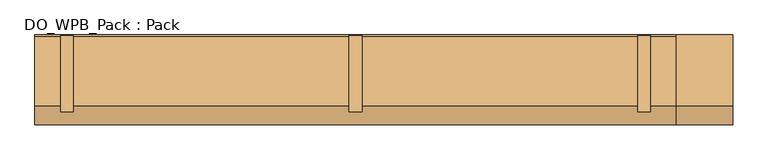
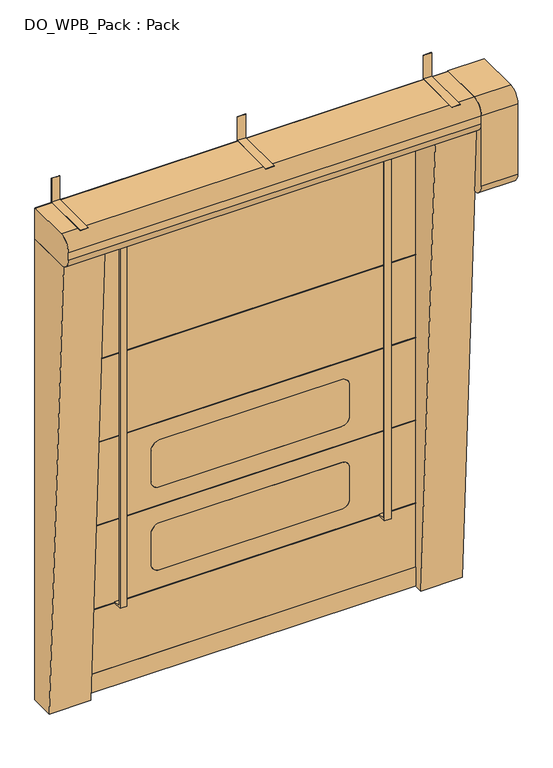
"""IFC4 building model written with IfcOpenShell, lengths in millimetres: door geometry, DO_WPB_Pack : Pack."""

import ifcopenshell
import ifcopenshell.guid

model = None  # the IFC model being written
_history = None  # IfcOwnerHistory: only IFC2X3 demands one
_inside = {}  # id of a spatial element -> (the spatial element, [elements in it])
_under = {}  # id of a project, library or spatial element -> (it, [spatial elements below it])
_declared = {}  # id of a project -> (the project, [libraries it declares])
_typed = {}  # id of a type object -> (the type object, [elements of that type])
_made_of = {}  # id of a material, layer set ... -> (it, [elements and type objects made of it])


def new_model(schema):
    """Start an empty IFC model of exactly this schema.

    Asked for "IFC4X3", IfcOpenShell would pick the latest addendum, in which some entities
    have other attributes; the version numbers below select the first issue.
    IFC2X3 requires an IfcOwnerHistory on every rooted entity: one is made here for all.
    """
    global model, _history
    if schema == "IFC4X3":
        model = ifcopenshell.file(schema_version=(4, 3, 0, 0))
    else:
        model = ifcopenshell.file(schema=schema)
    _inside.clear()
    _under.clear()
    _declared.clear()
    _typed.clear()
    _made_of.clear()
    _history = None
    if model.schema == "IFC2X3":
        org = make("IfcOrganization", Name="unknown")
        user = make(
            "IfcPersonAndOrganization",
            ThePerson=make("IfcPerson", FamilyName="unknown"),
            TheOrganization=org,
        )
        app = make(
            "IfcApplication",
            ApplicationDeveloper=org,
            Version="unknown",
            ApplicationFullName="unknown",
            ApplicationIdentifier="unknown",
        )
        _history = make(
            "IfcOwnerHistory",
            OwningUser=user,
            OwningApplication=app,
            ChangeAction="ADDED",
            CreationDate=0,
        )
    return model


def make(cls, **values):
    """One entity of the class cls with the attributes given. An attribute that is None is left unset."""
    return model.create_entity(
        cls, **{name: value for name, value in values.items() if value is not None}
    )


def rooted(cls, **values):
    """An entity with a GlobalId (a new one), such as an element, a storey or a relation."""
    return make(cls, GlobalId=ifcopenshell.guid.new(), OwnerHistory=_history, **values)


def si_unit(unit_type, name, prefix=None):
    """IfcSIUnit, for example si_unit("LENGTHUNIT", "METRE", prefix="MILLI")."""
    return make("IfcSIUnit", UnitType=unit_type, Prefix=prefix, Name=name)


def assignment(units):
    """IfcUnitAssignment: the units of a project."""
    return None if units is None else make("IfcUnitAssignment", Units=units)


def point(xyz):
    """IfcCartesianPoint."""
    return None if xyz is None else make("IfcCartesianPoint", Coordinates=xyz)


def direction(xyz):
    """IfcDirection."""
    return None if xyz is None else make("IfcDirection", DirectionRatios=xyz)


def frame(location, z_axis=None, x_axis=None):
    """IfcAxis2Placement3D, a coordinate frame: its origin and axes. An axis left out is left unset."""
    return make(
        "IfcAxis2Placement3D",
        Location=point(location),
        Axis=direction(z_axis),
        RefDirection=direction(x_axis),
    )


def frame_2d(location, x_axis=None):
    """IfcAxis2Placement2D, a coordinate frame in the plane: its origin and x axis."""
    return make(
        "IfcAxis2Placement2D", Location=point(location), RefDirection=direction(x_axis)
    )


def origin():
    """The frame at (0, 0, 0) with its axes left unset."""
    return frame((0.0, 0.0, 0.0))


def origin_with_axes():
    """The frame at (0, 0, 0) with the z axis (0, 0, 1) and the x axis (1, 0, 0) written out."""
    return frame((0.0, 0.0, 0.0), z_axis=(0.0, 0.0, 1.0), x_axis=(1.0, 0.0, 0.0))


def place(relative_to, where):
    """IfcLocalPlacement: puts the frame where relative to a parent placement (None: the world)."""
    return make(
        "IfcLocalPlacement", PlacementRelTo=relative_to, RelativePlacement=where
    )


def context(
    kind, dimensions, precision=None, world=None, true_north=None, identifier=None
):
    """IfcGeometricRepresentationContext, for example the 3D "Model" context."""
    return make(
        "IfcGeometricRepresentationContext",
        ContextIdentifier=identifier,
        ContextType=kind,
        CoordinateSpaceDimension=dimensions,
        Precision=precision,
        WorldCoordinateSystem=world,
        TrueNorth=true_north,
    )


def project(units=None, contexts=None):
    """IfcProject with its units and contexts."""
    return rooted(
        "IfcProject",
        Name="project",
        RepresentationContexts=contexts,
        UnitsInContext=assignment(units),
    )


def spatial(cls, under=None, at=None, **own):
    """A site, building, storey or space (cls), placed at a placement, below another one or the project."""
    s = rooted(cls, ObjectPlacement=at, **own)
    if under is not None:
        _under.setdefault(under.id(), (under, []))[1].append(s)
    return s


def polyline(points):
    """IfcPolyline through the points."""
    return make("IfcPolyline", Points=[point(p) for p in points])


def circle_curve(where, radius):
    """IfcCircle in the frame where."""
    return make("IfcCircle", Position=where, Radius=radius)


def trimmed(basis, trim1, trim2, sense, master):
    """IfcTrimmedCurve: the piece of a basis curve between two trims."""
    return make(
        "IfcTrimmedCurve",
        BasisCurve=basis,
        Trim1=trim1,
        Trim2=trim2,
        SenseAgreement=sense,
        MasterRepresentation=master,
    )


def segment(curve, same_sense, transition):
    """IfcCompositeCurveSegment."""
    return make(
        "IfcCompositeCurveSegment",
        Transition=transition,
        SameSense=same_sense,
        ParentCurve=curve,
    )


def composite_curve(segments, self_intersect=None):
    """IfcCompositeCurve: segments joined end to end."""
    return make("IfcCompositeCurve", Segments=segments, SelfIntersect=self_intersect)


def outline(outer, holes=None, kind="AREA"):
    """IfcArbitraryClosedProfileDef: a profile drawn as a closed curve; with holes, ...WithVoids."""
    if holes is None:
        return make("IfcArbitraryClosedProfileDef", ProfileType=kind, OuterCurve=outer)
    return make(
        "IfcArbitraryProfileDefWithVoids",
        ProfileType=kind,
        OuterCurve=outer,
        InnerCurves=holes,
    )


def extrude(swept, where, along, depth):
    """IfcExtrudedAreaSolid: the profile swept, set in the frame where, extruded along a direction by depth."""
    return make(
        "IfcExtrudedAreaSolid",
        SweptArea=swept,
        Position=where,
        ExtrudedDirection=direction(along),
        Depth=depth,
    )


def shape(context_of_items, identifier, shape_type, items):
    """IfcShapeRepresentation: the items that make up one representation, for example the "Body"."""
    return make(
        "IfcShapeRepresentation",
        ContextOfItems=context_of_items,
        RepresentationIdentifier=identifier,
        RepresentationType=shape_type,
        Items=items,
    )


def source(mapping_origin, context_of_items, identifier, shape_type, items):
    """IfcRepresentationMap: a shape defined once, which mapped items show again and again."""
    return make(
        "IfcRepresentationMap",
        MappingOrigin=mapping_origin,
        MappedRepresentation=shape(context_of_items, identifier, shape_type, items),
    )


def transform(
    local_origin,
    x_axis=None,
    y_axis=None,
    z_axis=None,
    scale=None,
    scale2=None,
    scale3=None,
    uniform=True,
):
    """IfcCartesianTransformationOperator3D, or its non-uniform kind. x_axis, y_axis, z_axis: its Axis1, 2, 3."""
    if uniform:
        return make(
            "IfcCartesianTransformationOperator3D",
            Axis1=direction(x_axis),
            Axis2=direction(y_axis),
            LocalOrigin=point(local_origin),
            Scale=scale,
            Axis3=direction(z_axis),
        )
    return make(
        "IfcCartesianTransformationOperator3DnonUniform",
        Axis1=direction(x_axis),
        Axis2=direction(y_axis),
        LocalOrigin=point(local_origin),
        Scale=scale,
        Axis3=direction(z_axis),
        Scale2=scale2,
        Scale3=scale3,
    )


def mapped(mapping_source, mapping_target):
    """IfcMappedItem: shows the shape of a source again, moved by a transform."""
    return make(
        "IfcMappedItem", MappingSource=mapping_source, MappingTarget=mapping_target
    )


def made_of(thing, what):
    """Note that an element or type object is made of a material, layer set ...; save() writes the relation."""
    if what is not None:
        _made_of.setdefault(what.id(), (what, []))[1].append(thing)
    return thing


def element(
    cls,
    number,
    at=None,
    inside=None,
    cuts=None,
    type_object=None,
    material=None,
    context=None,
    identifier="Body",
    shape_type=None,
    held_by="IfcProductDefinitionShape",
    body=None,
    shapes=None,
    **own,
):
    """One element of the class cls, such as IfcWall. Its Tag is "e" and its number.

    at: its placement. inside: the storey or other place that contains it. cuts: it is an
    opening in that element (IfcRelVoidsElement). A single representation is given by context,
    identifier, shape_type and body (its items); several are given by shapes. held_by: the class
    of the entity that holds the representations. save() writes the other relations.
    """
    e = rooted(cls, Tag="e%d" % number, ObjectPlacement=at, **own)
    if body is not None:
        shapes = [shape(context, identifier, shape_type, body)]
    if shapes is not None:
        e.Representation = make(held_by, Representations=shapes)
    if inside is not None:
        _inside.setdefault(inside.id(), (inside, []))[1].append(e)
    if cuts is not None:
        rooted(
            "IfcRelVoidsElement", RelatingBuildingElement=cuts, RelatedOpeningElement=e
        )
    if type_object is not None:
        _typed.setdefault(type_object.id(), (type_object, []))[1].append(e)
    return made_of(e, material)


def aggregate(whole, parts):
    """IfcRelAggregates: a whole, such as a stair, and the parts it consists of."""
    return rooted("IfcRelAggregates", RelatingObject=whole, RelatedObjects=parts)


def save(model, path):
    """Write the relations noted so far, then the file.

    IfcRelAggregates (storeys below a building ...), IfcRelContainedInSpatialStructure (elements
    in a storey), IfcRelDefinesByType, IfcRelAssociatesMaterial and IfcRelDeclares: one each for
    every whole, place, type object, material and project.
    """
    for whole, parts in _under.values():
        aggregate(whole, parts)
    for where, things in _inside.values():
        rooted(
            "IfcRelContainedInSpatialStructure",
            RelatedElements=things,
            RelatingStructure=where,
        )
    for kind, things in _typed.values():
        rooted("IfcRelDefinesByType", RelatedObjects=things, RelatingType=kind)
    for what, things in _made_of.values():
        rooted("IfcRelAssociatesMaterial", RelatedObjects=things, RelatingMaterial=what)
    for by, libraries in _declared.values():
        rooted("IfcRelDeclares", RelatingContext=by, RelatedDefinitions=libraries)
    model.write(path)


def do_wpb_pack_pack_5cf3cf8c(model_context):
    return source(origin(), model_context, "Body", "SweptSolid", [
        extrude(outline(composite_curve([segment(trimmed(circle_curve(frame_2d((25.0, 1175.0)), 6.0), [point((31.0, 1175.0))], [point((19.0, 1175.0))], False, "CARTESIAN"), True, "CONTINUOUS"), segment(trimmed(circle_curve(frame_2d((25.0, 1175.0)), 6.0), [point((19.0, 1175.0))], [point((31.0, 1175.0))], False, "CARTESIAN"), True, "CONTINUOUS")], self_intersect=False)), frame((0.0, -10.0, 0.0), z_axis=(0.0, 1.0, 0.0), x_axis=(0.0, 0.0, 1.0)), (0.0, 0.0, 1.0), 10.0),
        extrude(outline(composite_curve([segment(trimmed(circle_curve(frame_2d((25.0, 1075.0)), 6.0), [point((31.0, 1075.0))], [point((19.0, 1075.0))], False, "CARTESIAN"), True, "CONTINUOUS"), segment(trimmed(circle_curve(frame_2d((25.0, 1075.0)), 6.0), [point((19.0, 1075.0))], [point((31.0, 1075.0))], False, "CARTESIAN"), True, "CONTINUOUS")], self_intersect=False)), frame((0.0, -10.0, 0.0), z_axis=(0.0, 1.0, 0.0), x_axis=(0.0, 0.0, 1.0)), (0.0, 0.0, 1.0), 10.0),
        extrude(outline(composite_curve([segment(trimmed(circle_curve(frame_2d((25.0, -1075.0)), 6.0), [point((31.0, -1075.0))], [point((19.0, -1075.0))], False, "CARTESIAN"), True, "CONTINUOUS"), segment(trimmed(circle_curve(frame_2d((25.0, -1075.0)), 6.0), [point((19.0, -1075.0))], [point((31.0, -1075.0))], False, "CARTESIAN"), True, "CONTINUOUS")], self_intersect=False)), frame((0.0, -10.0, 0.0), z_axis=(0.0, 1.0, 0.0), x_axis=(0.0, 0.0, 1.0)), (0.0, 0.0, 1.0), 10.0),
        extrude(outline(composite_curve([segment(trimmed(circle_curve(frame_2d((25.0, -1175.0)), 6.0), [point((31.0, -1175.0))], [point((19.0, -1175.0))], False, "CARTESIAN"), True, "CONTINUOUS"), segment(trimmed(circle_curve(frame_2d((25.0, -1175.0)), 6.0), [point((19.0, -1175.0))], [point((31.0, -1175.0))], False, "CARTESIAN"), True, "CONTINUOUS")], self_intersect=False)), frame((0.0, -10.0, 0.0), z_axis=(0.0, 1.0, 0.0), x_axis=(0.0, 0.0, 1.0)), (0.0, 0.0, 1.0), 10.0),
        extrude(outline(composite_curve([segment(trimmed(circle_curve(frame_2d((1075.0, -116.0)), 6.0), [point((1069.0, -116.0))], [point((1081.0, -116.0))], False, "CARTESIAN"), True, "CONTINUOUS"), segment(polyline([(1081.0, -116.0), (1081.0, -134.0)]), True, "CONTINUOUS"), segment(trimmed(circle_curve(frame_2d((1075.0, -134.0)), 6.0), [point((1081.0, -134.0))], [point((1069.0, -134.0))], False, "CARTESIAN"), True, "CONTINUOUS"), segment(polyline([(1069.0, -134.0), (1069.0, -116.0)]), True, "CONTINUOUS")], self_intersect=False)), origin_with_axes(), (0.0, 0.0, 1.0), 10.0),
        extrude(outline(composite_curve([segment(trimmed(circle_curve(frame_2d((1175.0, -116.0)), 6.0), [point((1169.0, -116.0))], [point((1181.0, -116.0))], False, "CARTESIAN"), True, "CONTINUOUS"), segment(polyline([(1181.0, -116.0), (1181.0, -134.0)]), True, "CONTINUOUS"), segment(trimmed(circle_curve(frame_2d((1175.0, -134.0)), 6.0), [point((1181.0, -134.0))], [point((1169.0, -134.0))], False, "CARTESIAN"), True, "CONTINUOUS"), segment(polyline([(1169.0, -134.0), (1169.0, -116.0)]), True, "CONTINUOUS")], self_intersect=False)), origin_with_axes(), (0.0, 0.0, 1.0), 10.0),
        extrude(outline(composite_curve([segment(trimmed(circle_curve(frame_2d((1075.0, -16.0)), 6.0), [point((1069.0, -16.0))], [point((1081.0, -16.0))], False, "CARTESIAN"), True, "CONTINUOUS"), segment(polyline([(1081.0, -16.0), (1081.0, -34.0)]), True, "CONTINUOUS"), segment(trimmed(circle_curve(frame_2d((1075.0, -34.0)), 6.0), [point((1081.0, -34.0))], [point((1069.0, -34.0))], False, "CARTESIAN"), True, "CONTINUOUS"), segment(polyline([(1069.0, -34.0), (1069.0, -16.0)]), True, "CONTINUOUS")], self_intersect=False)), origin_with_axes(), (0.0, 0.0, 1.0), 10.0),
        extrude(outline(composite_curve([segment(trimmed(circle_curve(frame_2d((1175.0, -16.0)), 6.0), [point((1169.0, -16.0))], [point((1181.0, -16.0))], False, "CARTESIAN"), True, "CONTINUOUS"), segment(polyline([(1181.0, -16.0), (1181.0, -34.0)]), True, "CONTINUOUS"), segment(trimmed(circle_curve(frame_2d((1175.0, -34.0)), 6.0), [point((1181.0, -34.0))], [point((1169.0, -34.0))], False, "CARTESIAN"), True, "CONTINUOUS"), segment(polyline([(1169.0, -34.0), (1169.0, -16.0)]), True, "CONTINUOUS")], self_intersect=False)), origin_with_axes(), (0.0, 0.0, 1.0), 10.0),
        extrude(outline(composite_curve([segment(trimmed(circle_curve(frame_2d((-1075.0, -134.0)), 6.0), [point((-1069.0, -134.0))], [point((-1081.0, -134.0))], False, "CARTESIAN"), True, "CONTINUOUS"), segment(polyline([(-1081.0, -134.0), (-1081.0, -116.0)]), True, "CONTINUOUS"), segment(trimmed(circle_curve(frame_2d((-1075.0, -116.0)), 6.0), [point((-1081.0, -116.0))], [point((-1069.0, -116.0))], False, "CARTESIAN"), True, "CONTINUOUS"), segment(polyline([(-1069.0, -116.0), (-1069.0, -134.0)]), True, "CONTINUOUS")], self_intersect=False)), origin_with_axes(), (0.0, 0.0, 1.0), 10.0),
        extrude(outline(composite_curve([segment(trimmed(circle_curve(frame_2d((-1175.0, -134.0)), 6.0), [point((-1169.0, -134.0))], [point((-1181.0, -134.0))], False, "CARTESIAN"), True, "CONTINUOUS"), segment(polyline([(-1181.0, -134.0), (-1181.0, -116.0)]), True, "CONTINUOUS"), segment(trimmed(circle_curve(frame_2d((-1175.0, -116.0)), 6.0), [point((-1181.0, -116.0))], [point((-1169.0, -116.0))], False, "CARTESIAN"), True, "CONTINUOUS"), segment(polyline([(-1169.0, -116.0), (-1169.0, -134.0)]), True, "CONTINUOUS")], self_intersect=False)), origin_with_axes(), (0.0, 0.0, 1.0), 10.0),
        extrude(outline(composite_curve([segment(trimmed(circle_curve(frame_2d((-1075.0, -34.0)), 6.0), [point((-1069.0, -34.0))], [point((-1081.0, -34.0))], False, "CARTESIAN"), True, "CONTINUOUS"), segment(polyline([(-1081.0, -34.0), (-1081.0, -16.0)]), True, "CONTINUOUS"), segment(trimmed(circle_curve(frame_2d((-1075.0, -16.0)), 6.0), [point((-1081.0, -16.0))], [point((-1069.0, -16.0))], False, "CARTESIAN"), True, "CONTINUOUS"), segment(polyline([(-1069.0, -16.0), (-1069.0, -34.0)]), True, "CONTINUOUS")], self_intersect=False)), origin_with_axes(), (0.0, 0.0, 1.0), 10.0),
        extrude(outline(composite_curve([segment(trimmed(circle_curve(frame_2d((-1175.0, -34.0)), 6.0), [point((-1169.0, -34.0))], [point((-1181.0, -34.0))], False, "CARTESIAN"), True, "CONTINUOUS"), segment(polyline([(-1181.0, -34.0), (-1181.0, -16.0)]), True, "CONTINUOUS"), segment(trimmed(circle_curve(frame_2d((-1175.0, -16.0)), 6.0), [point((-1181.0, -16.0))], [point((-1169.0, -16.0))], False, "CARTESIAN"), True, "CONTINUOUS"), segment(polyline([(-1169.0, -16.0), (-1169.0, -34.0)]), True, "CONTINUOUS")], self_intersect=False)), origin_with_axes(), (0.0, 0.0, 1.0), 10.0),
        extrude(outline(polyline([(0.0, 3303.0), (0.0, 3150.0), (-300.0, 3150.0), (-300.0, 3152.0), (-2.0, 3152.0), (-2.0, 3303.0), (0.0, 3303.0)])), frame((-25.0, 0.0, 0.0), z_axis=(1.0, 0.0, 0.0), x_axis=(0.0, 1.0, 0.0)), (0.0, 0.0, 1.0), 50.0),
        extrude(outline(polyline([(0.0, 3303.0), (0.0, 3150.0), (-300.0, 3150.0), (-300.0, 3152.0), (-2.0, 3152.0), (-2.0, 3303.0), (0.0, 3303.0)])), frame((1100.0, 0.0, 0.0), z_axis=(1.0, 0.0, 0.0), x_axis=(0.0, 1.0, 0.0)), (0.0, 0.0, 1.0), 50.0),
        extrude(outline(polyline([(0.0, 3303.0), (0.0, 3150.0), (-300.0, 3150.0), (-300.0, 3152.0), (-2.0, 3152.0), (-2.0, 3303.0), (0.0, 3303.0)])), frame((-1150.0, 0.0, 0.0), z_axis=(1.0, 0.0, 0.0), x_axis=(0.0, 1.0, 0.0)), (0.0, 0.0, 1.0), 50.0),
        extrude(outline(polyline([(-93.5, 525.0), (-148.5, 525.0), (-148.5, 3055.0), (-93.5, 3055.0), (-93.5, 3045.0), (-138.5, 3045.0), (-138.5, 535.0), (-93.5, 535.0), (-93.5, 525.0)])), frame((780.0, 0.0, 0.0), z_axis=(1.0, 0.0, 0.0), x_axis=(0.0, 1.0, 0.0)), (0.0, 0.0, 1.0), 40.0),
        extrude(outline(polyline([(-93.5, 525.0), (-148.5, 525.0), (-148.5, 3055.0), (-93.5, 3055.0), (-93.5, 3045.0), (-138.5, 3045.0), (-138.5, 535.0), (-93.5, 535.0), (-93.5, 525.0)])), frame((-820.0, 0.0, 0.0), z_axis=(1.0, 0.0, 0.0), x_axis=(0.0, 1.0, 0.0)), (0.0, 0.0, 1.0), 40.0),
        extrude(outline(polyline([(-1000.0, -95.5), (-1000.0, -84.5), (1000.0, -84.5), (1000.0, -95.5), (-1000.0, -95.5)])), frame((0.0, 0.0, 2119.0), z_axis=(0.0, 0.0, 1.0), x_axis=(1.0, 0.0, 0.0)), (0.0, 0.0, 1.0), 2.0),
        extrude(outline(polyline([(-1000.0, -95.5), (-1000.0, -84.5), (1000.0, -84.5), (1000.0, -95.5), (-1000.0, -95.5)])), frame((0.0, 0.0, 1589.0), z_axis=(0.0, 0.0, 1.0), x_axis=(1.0, 0.0, 0.0)), (0.0, 0.0, 1.0), 2.0),
        extrude(outline(polyline([(-1000.0, -95.5), (-1000.0, -84.5), (1000.0, -84.5), (1000.0, -95.5), (-1000.0, -95.5)])), frame((0.0, 0.0, 1059.0), z_axis=(0.0, 0.0, 1.0), x_axis=(1.0, 0.0, 0.0)), (0.0, 0.0, 1.0), 2.0),
        extrude(outline(polyline([(-1000.0, -95.5), (-1000.0, -84.5), (1000.0, -84.5), (1000.0, -95.5), (-1000.0, -95.5)])), frame((0.0, 0.0, 529.0), z_axis=(0.0, 0.0, 1.0), x_axis=(1.0, 0.0, 0.0)), (0.0, 0.0, 1.0), 2.0),
        extrude(outline(composite_curve([segment(trimmed(circle_curve(frame_2d((1225.0, 550.0)), 50.0), [point((1175.0, 550.0))], [point((1225.0, 600.0))], False, "CARTESIAN"), True, "CONTINUOUS"), segment(polyline([(1225.0, 600.0), (1425.0, 600.0)]), True, "CONTINUOUS"), segment(trimmed(circle_curve(frame_2d((1425.0, 550.0)), 50.0), [point((1425.0, 600.0))], [point((1475.0, 550.0))], False, "CARTESIAN"), True, "CONTINUOUS"), segment(polyline([(1475.0, 550.0), (1475.0, -550.0)]), True, "CONTINUOUS"), segment(trimmed(circle_curve(frame_2d((1425.0, -550.0)), 50.0), [point((1475.0, -550.0))], [point((1425.0, -600.0))], False, "CARTESIAN"), True, "CONTINUOUS"), segment(polyline([(1425.0, -600.0), (1225.0, -600.0)]), True, "CONTINUOUS"), segment(trimmed(circle_curve(frame_2d((1225.0, -550.0)), 50.0), [point((1225.0, -600.0))], [point((1175.0, -550.0))], False, "CARTESIAN"), True, "CONTINUOUS"), segment(polyline([(1175.0, -550.0), (1175.0, 550.0)]), True, "CONTINUOUS")], self_intersect=False)), frame((0.0, -93.5, 0.0), z_axis=(0.0, 1.0, 0.0), x_axis=(0.0, 0.0, 1.0)), (0.0, 0.0, 1.0), 7.0),
        extrude(outline(composite_curve([segment(trimmed(circle_curve(frame_2d((695.0, 550.0)), 50.0), [point((645.0, 550.0))], [point((695.0, 600.0))], False, "CARTESIAN"), True, "CONTINUOUS"), segment(polyline([(695.0, 600.0), (895.0, 600.0)]), True, "CONTINUOUS"), segment(trimmed(circle_curve(frame_2d((895.0, 550.0)), 50.0), [point((895.0, 600.0))], [point((945.0, 550.0))], False, "CARTESIAN"), True, "CONTINUOUS"), segment(polyline([(945.0, 550.0), (945.0, -550.0)]), True, "CONTINUOUS"), segment(trimmed(circle_curve(frame_2d((895.0, -550.0)), 50.0), [point((945.0, -550.0))], [point((895.0, -600.0))], False, "CARTESIAN"), True, "CONTINUOUS"), segment(polyline([(895.0, -600.0), (695.0, -600.0)]), True, "CONTINUOUS"), segment(trimmed(circle_curve(frame_2d((695.0, -550.0)), 50.0), [point((695.0, -600.0))], [point((645.0, -550.0))], False, "CARTESIAN"), True, "CONTINUOUS"), segment(polyline([(645.0, -550.0), (645.0, 550.0)]), True, "CONTINUOUS")], self_intersect=False)), frame((0.0, -93.5, 0.0), z_axis=(0.0, 1.0, 0.0), x_axis=(0.0, 0.0, 1.0)), (0.0, 0.0, 1.0), 7.0),
        extrude(outline(polyline([(120.0, -1012.0), (120.0, 1012.0), (3050.0, 1012.0), (3050.0, -1012.0), (120.0, -1012.0)]), holes=[composite_curve([segment(trimmed(circle_curve(frame_2d((695.0, 550.0)), 50.0), [point((695.0, 600.0))], [point((645.0, 550.0))], True, "CARTESIAN"), True, "CONTINUOUS"), segment(polyline([(645.0, 550.0), (645.0, -550.0)]), True, "CONTINUOUS"), segment(trimmed(circle_curve(frame_2d((695.0, -550.0)), 50.0), [point((645.0, -550.0))], [point((695.0, -600.0))], True, "CARTESIAN"), True, "CONTINUOUS"), segment(polyline([(695.0, -600.0), (895.0, -600.0)]), True, "CONTINUOUS"), segment(trimmed(circle_curve(frame_2d((895.0, -550.0)), 50.0), [point((895.0, -600.0))], [point((945.0, -550.0))], True, "CARTESIAN"), True, "CONTINUOUS"), segment(polyline([(945.0, -550.0), (945.0, 550.0)]), True, "CONTINUOUS"), segment(trimmed(circle_curve(frame_2d((895.0, 550.0)), 50.0), [point((945.0, 550.0))], [point((895.0, 600.0))], True, "CARTESIAN"), True, "CONTINUOUS"), segment(polyline([(895.0, 600.0), (695.0, 600.0)]), True, "CONTINUOUS")], self_intersect=False), composite_curve([segment(trimmed(circle_curve(frame_2d((1225.0, 550.0)), 50.0), [point((1225.0, 600.0))], [point((1175.0, 550.0))], True, "CARTESIAN"), True, "CONTINUOUS"), segment(polyline([(1175.0, 550.0), (1175.0, -550.0)]), True, "CONTINUOUS"), segment(trimmed(circle_curve(frame_2d((1225.0, -550.0)), 50.0), [point((1175.0, -550.0))], [point((1225.0, -600.0))], True, "CARTESIAN"), True, "CONTINUOUS"), segment(polyline([(1225.0, -600.0), (1425.0, -600.0)]), True, "CONTINUOUS"), segment(trimmed(circle_curve(frame_2d((1425.0, -550.0)), 50.0), [point((1425.0, -600.0))], [point((1475.0, -550.0))], True, "CARTESIAN"), True, "CONTINUOUS"), segment(polyline([(1475.0, -550.0), (1475.0, 550.0)]), True, "CONTINUOUS"), segment(trimmed(circle_curve(frame_2d((1425.0, 550.0)), 50.0), [point((1475.0, 550.0))], [point((1425.0, 600.0))], True, "CARTESIAN"), True, "CONTINUOUS"), segment(polyline([(1425.0, 600.0), (1225.0, 600.0)]), True, "CONTINUOUS")], self_intersect=False)]), frame((0.0, -93.5, 0.0), z_axis=(0.0, 1.0, 0.0), x_axis=(0.0, 0.0, 1.0)), (0.0, 0.0, 1.0), 7.0),
        extrude(outline(polyline([(-1012.0, -84.5), (1012.0, -84.5), (1012.0, -95.5), (-1012.0, -95.5), (-1012.0, -84.5)])), origin_with_axes(), (0.0, 0.0, 1.0), 120.0),
        extrude(outline(composite_curve([segment(polyline([(0.0, 3150.0), (0.0, 2550.0), (-275.0, 2550.0)]), True, "CONTINUOUS"), segment(trimmed(circle_curve(frame_2d((-275.0, 2625.0)), 75.0), [point((-275.0, 2550.0))], [point((-350.0, 2625.0))], False, "CARTESIAN"), True, "CONTINUOUS"), segment(polyline([(-350.0, 2625.0), (-350.0, 3075.0)]), True, "CONTINUOUS"), segment(trimmed(circle_curve(frame_2d((-275.0, 3075.0)), 75.0), [point((-350.0, 3075.0))], [point((-275.0, 3150.0))], False, "CARTESIAN"), True, "CONTINUOUS"), segment(polyline([(-275.0, 3150.0), (0.0, 3150.0)]), True, "CONTINUOUS")], self_intersect=False)), frame((1250.0, 0.0, 0.0), z_axis=(1.0, 0.0, 0.0), x_axis=(0.0, 1.0, 0.0)), (0.0, 0.0, 1.0), 220.0),
        extrude(outline(composite_curve([segment(trimmed(circle_curve(frame_2d((-5.0, 2955.0)), 5.0), [point((0.0, 2955.0))], [point((-5.0, 2950.0))], False, "CARTESIAN"), True, "CONTINUOUS"), segment(polyline([(-5.0, 2950.0), (-275.0, 2950.0)]), True, "CONTINUOUS"), segment(trimmed(circle_curve(frame_2d((-275.0, 3025.0)), 75.0), [point((-275.0, 2950.0))], [point((-350.0, 3025.0))], False, "CARTESIAN"), True, "CONTINUOUS"), segment(polyline([(-350.0, 3025.0), (-350.0, 3075.0)]), True, "CONTINUOUS"), segment(trimmed(circle_curve(frame_2d((-275.0, 3075.0)), 75.0), [point((-350.0, 3075.0))], [point((-275.0, 3150.0))], False, "CARTESIAN"), True, "CONTINUOUS"), segment(polyline([(-275.0, 3150.0), (-5.0, 3150.0)]), True, "CONTINUOUS"), segment(trimmed(circle_curve(frame_2d((-5.0, 3145.0)), 5.0), [point((-5.0, 3150.0))], [point((0.0, 3145.0))], False, "CARTESIAN"), True, "CONTINUOUS"), segment(polyline([(0.0, 3145.0), (0.0, 2955.0)]), True, "CONTINUOUS")], self_intersect=False)), frame((-1250.0, 0.0, 0.0), z_axis=(1.0, 0.0, 0.0), x_axis=(0.0, 1.0, 0.0)), (0.0, 0.0, 1.0), 2500.0),
        extrude(outline(polyline([(0.0, 0.0), (-150.0, 0.0), (-300.0, 2950.0), (0.0, 2950.0), (0.0, 0.0)])), frame((1000.0, 0.0, 0.0), z_axis=(1.0, 0.0, 0.0), x_axis=(0.0, 1.0, 0.0)), (0.0, 0.0, 1.0), 250.0),
        extrude(outline(polyline([(0.0, 0.0), (-150.0, 0.0), (-300.0, 2950.0), (0.0, 2950.0), (0.0, 0.0)])), frame((-1250.0, 0.0, 0.0), z_axis=(1.0, 0.0, 0.0), x_axis=(0.0, 1.0, 0.0)), (0.0, 0.0, 1.0), 250.0),
    ])


if __name__ == "__main__":
    model = new_model("IFC4")
    model_context = context("Model", 3, world=origin())
    ifc_project = project(units=[si_unit("LENGTHUNIT", "METRE", prefix="MILLI")], contexts=[model_context])
    site = spatial("IfcSite", under=ifc_project)
    building = spatial("IfcBuilding", under=site)
    placement = place(None, origin())
    do_wpb_pack_pack_shape = do_wpb_pack_pack_5cf3cf8c(model_context)
    element("IfcDoor", 1, ObjectType="DO_WPB_Pack : Pack", at=placement, inside=building, context=model_context, shape_type="MappedRepresentation", body=[
        mapped(do_wpb_pack_pack_shape, transform((0.0, 0.0, 0.0), x_axis=(1.0, 0.0, 0.0), y_axis=(0.0, 1.0, 0.0), z_axis=(0.0, 0.0, 1.0))),
    ])
    save(model, "model.ifc")
